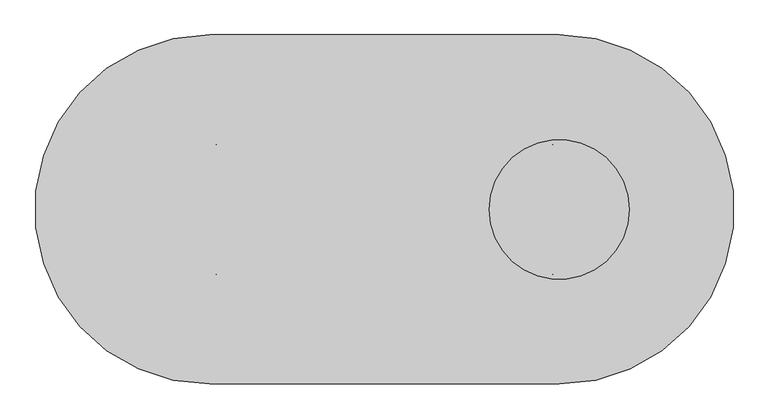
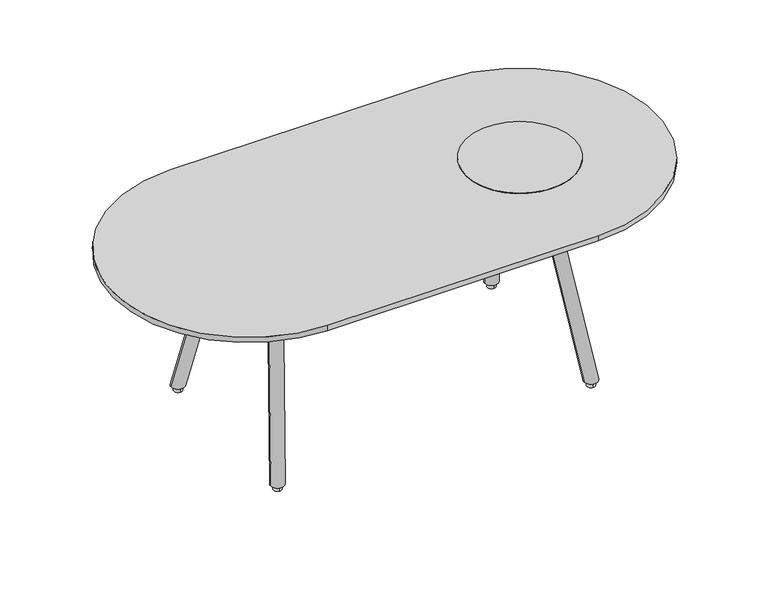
"""IFC4 building model written with IfcOpenShell, lengths in millimetres: furniture geometry, Coffee table_Friendly : Coffee table_Friendly."""

from ifc_helpers import new_model, si_unit, point, frame, frame_2d, origin, origin_with_axes, place, context, project, spatial, polyline, circle_curve, trimmed, segment, composite_curve, outline, extrude, source, transform, mapped, element, save
from ifc_brep_helpers import plane_surface, extruded_surface, advanced_brep


def furniture_2f6715d6(model_context):
    return source(origin(), model_context, "Body", "SolidModel", [
        extrude(outline(composite_curve([segment(trimmed(circle_curve(frame_2d((289.0, 159.0)), 7.5), [point((289.0, 151.5))], [point((289.0, 166.5))], False, "CARTESIAN"), True, "CONTINUOUS"), segment(trimmed(circle_curve(frame_2d((289.0, 159.0)), 7.5), [point((289.0, 166.5))], [point((289.0, 151.5))], False, "CARTESIAN"), True, "CONTINUOUS")], self_intersect=False)), origin_with_axes(), (0.0, 0.0, 1.0), 10.0),
        extrude(outline(composite_curve([segment(trimmed(circle_curve(frame_2d((289.0, -159.0)), 7.5), [point((289.0, -151.5))], [point((289.0, -166.5))], False, "CARTESIAN"), True, "CONTINUOUS"), segment(trimmed(circle_curve(frame_2d((289.0, -159.0)), 7.5), [point((289.0, -166.5))], [point((289.0, -151.5))], False, "CARTESIAN"), True, "CONTINUOUS")], self_intersect=False)), origin_with_axes(), (0.0, 0.0, 1.0), 10.0),
        extrude(outline(composite_curve([segment(trimmed(circle_curve(frame_2d((250.0, 0.0)), 100.0), [point((150.0, 0.0))], [point((350.0, 0.0))], False, "CARTESIAN"), True, "CONTINUOUS"), segment(trimmed(circle_curve(frame_2d((250.0, 0.0)), 100.0), [point((350.0, 0.0))], [point((150.0, 0.0))], False, "CARTESIAN"), True, "CONTINUOUS")], self_intersect=False)), frame((0.0, 0.0, 360.0), z_axis=(0.0, 0.0, 1.0), x_axis=(1.0, 0.0, 0.0)), (0.0, 0.0, 1.0), 1.0),
        extrude(outline(composite_curve([segment(trimmed(circle_curve(frame_2d((-289.0, -159.0)), 7.5), [point((-289.0, -151.5))], [point((-289.0, -166.5))], False, "CARTESIAN"), True, "CONTINUOUS"), segment(trimmed(circle_curve(frame_2d((-289.0, -159.0)), 7.5), [point((-289.0, -166.5))], [point((-289.0, -151.5))], False, "CARTESIAN"), True, "CONTINUOUS")], self_intersect=False)), origin_with_axes(), (0.0, 0.0, 1.0), 10.0),
        extrude(outline(composite_curve([segment(trimmed(circle_curve(frame_2d((-289.0, 159.0)), 7.5), [point((-289.0, 151.5))], [point((-289.0, 166.5))], False, "CARTESIAN"), True, "CONTINUOUS"), segment(trimmed(circle_curve(frame_2d((-289.0, 159.0)), 7.5), [point((-289.0, 166.5))], [point((-289.0, 151.5))], False, "CARTESIAN"), True, "CONTINUOUS")], self_intersect=False)), origin_with_axes(), (0.0, 0.0, 1.0), 10.0),
        advanced_brep(
        [(-262.5, 85.0, 329.0), (-237.5, 85.0, 329.0), (-301.5, 159.0, 10.0), (-276.5, 159.0, 10.0)],
        [
            (0, 1, circle_curve(frame((-250.0, 85.0, 329.0), z_axis=(0.0, 0.0, 1.0), x_axis=(1.0, 0.0, 0.0)), 12.5)),
            (1, 0, circle_curve(frame((-250.0, 85.0, 329.0), z_axis=(0.0, 0.0, 1.0), x_axis=(1.0, 0.0, 0.0)), 12.5)),
            (2, 3, circle_curve(frame((-289.0, 159.0, 10.0), z_axis=(0.0, 0.0, -1.0), x_axis=(1.0, 0.0, 0.0)), 12.5)),
            (3, 2, circle_curve(frame((-289.0, 159.0, 10.0), z_axis=(0.0, 0.0, -1.0), x_axis=(1.0, 0.0, 0.0)), 12.5)),
            (0, 2),
            (3, 1),
        ],
        [
            plane_surface(frame((-250.0, 85.0, 329.0), z_axis=(0.0, 0.0, 1.0), x_axis=(0.0, -1.0, 0.0))),
            plane_surface(frame((-289.0, 159.0, 10.0), z_axis=(0.0, 0.0, -1.0), x_axis=(0.0, -1.0, 0.0))),
            extruded_surface(trimmed(circle_curve(frame((-289.0, 159.0, 10.0), z_axis=(0.0, 0.0, 1.0), x_axis=(1.0, 0.0, 0.0)), 12.5), [point((-301.5, 159.0, 10.0))], [point((-276.5, 159.0, 10.0))], True, "CARTESIAN"), (39.0, -74.0, 319.0), 329.7847783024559),
            extruded_surface(trimmed(circle_curve(frame((-289.0, 159.0, 10.0), z_axis=(0.0, 0.0, 1.0), x_axis=(1.0, 0.0, 0.0)), 12.5), [point((-276.5, 159.0, 10.0))], [point((-301.5, 159.0, 10.0))], True, "CARTESIAN"), (39.0, -74.0, 319.0), 329.7847783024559),
        ],
        [
            (0, [[1, 2]]),
            (1, [[3, 4]]),
            (2, [[-1, 5, -4, 6]]),
            (3, [[-2, -6, -3, -5]]),
        ],
    ),
        advanced_brep(
        [(262.5, 85.0, 329.0), (237.5, 85.0, 329.0), (301.5, 159.0, 10.0), (276.5, 159.0, 10.0)],
        [
            (0, 1, circle_curve(frame((250.0, 85.0, 329.0), z_axis=(0.0, 0.0, 1.0), x_axis=(-1.0, 0.0, 0.0)), 12.5)),
            (1, 0, circle_curve(frame((250.0, 85.0, 329.0), z_axis=(0.0, 0.0, 1.0), x_axis=(-1.0, 0.0, 0.0)), 12.5)),
            (2, 3, circle_curve(frame((289.0, 159.0, 10.0), z_axis=(0.0, 0.0, -1.0), x_axis=(-1.0, 0.0, 0.0)), 12.5)),
            (3, 2, circle_curve(frame((289.0, 159.0, 10.0), z_axis=(0.0, 0.0, -1.0), x_axis=(-1.0, 0.0, 0.0)), 12.5)),
            (0, 2),
            (3, 1),
        ],
        [
            plane_surface(frame((250.0, 85.0, 329.0), z_axis=(0.0, 0.0, 1.0), x_axis=(0.0, 1.0, 0.0))),
            plane_surface(frame((289.0, 159.0, 10.0), z_axis=(0.0, 0.0, -1.0), x_axis=(0.0, 1.0, 0.0))),
            extruded_surface(trimmed(circle_curve(frame((289.0, 159.0, 10.0), z_axis=(0.0, 0.0, 1.0), x_axis=(-1.0, 0.0, 0.0)), 12.5), [point((301.5, 159.0, 10.0))], [point((276.5, 159.0, 10.0))], True, "CARTESIAN"), (-39.0, -74.0, 319.0), 329.7847783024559),
            extruded_surface(trimmed(circle_curve(frame((289.0, 159.0, 10.0), z_axis=(0.0, 0.0, 1.0), x_axis=(-1.0, 0.0, 0.0)), 12.5), [point((276.5, 159.0, 10.0))], [point((301.5, 159.0, 10.0))], True, "CARTESIAN"), (-39.0, -74.0, 319.0), 329.7847783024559),
        ],
        [
            (0, [[1, 2]]),
            (1, [[3, 4]]),
            (2, [[-1, 5, -4, 6]]),
            (3, [[-2, -6, -3, -5]]),
        ],
    ),
        advanced_brep(
        [(-262.5, -85.0, 329.0), (-237.5, -85.0, 329.0), (-301.5, -159.0, 10.0), (-276.5, -159.0, 10.0)],
        [
            (0, 1, circle_curve(frame((-250.0, -85.0, 329.0), z_axis=(0.0, 0.0, 1.0), x_axis=(1.0, 0.0, 0.0)), 12.5)),
            (1, 0, circle_curve(frame((-250.0, -85.0, 329.0), z_axis=(0.0, 0.0, 1.0), x_axis=(1.0, 0.0, 0.0)), 12.5)),
            (2, 3, circle_curve(frame((-289.0, -159.0, 10.0), z_axis=(0.0, 0.0, -1.0), x_axis=(1.0, 0.0, 0.0)), 12.5)),
            (3, 2, circle_curve(frame((-289.0, -159.0, 10.0), z_axis=(0.0, 0.0, -1.0), x_axis=(1.0, 0.0, 0.0)), 12.5)),
            (0, 2),
            (3, 1),
        ],
        [
            plane_surface(frame((-250.0, -85.0, 329.0), z_axis=(0.0, 0.0, 1.0), x_axis=(0.0, -1.0, 0.0))),
            plane_surface(frame((-289.0, -159.0, 10.0), z_axis=(0.0, 0.0, -1.0), x_axis=(0.0, -1.0, 0.0))),
            extruded_surface(trimmed(circle_curve(frame((-289.0, -159.0, 10.0), z_axis=(0.0, 0.0, 1.0), x_axis=(1.0, 0.0, 0.0)), 12.5), [point((-301.5, -159.0, 10.0))], [point((-276.5, -159.0, 10.0))], True, "CARTESIAN"), (39.0, 74.0, 319.0), 329.7847783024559),
            extruded_surface(trimmed(circle_curve(frame((-289.0, -159.0, 10.0), z_axis=(0.0, 0.0, 1.0), x_axis=(1.0, 0.0, 0.0)), 12.5), [point((-276.5, -159.0, 10.0))], [point((-301.5, -159.0, 10.0))], True, "CARTESIAN"), (39.0, 74.0, 319.0), 329.7847783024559),
        ],
        [
            (0, [[1, 2]]),
            (1, [[3, 4]]),
            (2, [[-1, 5, -4, 6]]),
            (3, [[-2, -6, -3, -5]]),
        ],
    ),
        advanced_brep(
        [(262.5, -85.0, 329.0), (237.5, -85.0, 329.0), (301.5, -159.0, 10.0), (276.5, -159.0, 10.0)],
        [
            (0, 1, circle_curve(frame((250.0, -85.0, 329.0), z_axis=(0.0, 0.0, 1.0), x_axis=(-1.0, 0.0, 0.0)), 12.5)),
            (1, 0, circle_curve(frame((250.0, -85.0, 329.0), z_axis=(0.0, 0.0, 1.0), x_axis=(-1.0, 0.0, 0.0)), 12.5)),
            (2, 3, circle_curve(frame((289.0, -159.0, 10.0), z_axis=(0.0, 0.0, -1.0), x_axis=(-1.0, 0.0, 0.0)), 12.5)),
            (3, 2, circle_curve(frame((289.0, -159.0, 10.0), z_axis=(0.0, 0.0, -1.0), x_axis=(-1.0, 0.0, 0.0)), 12.5)),
            (0, 2),
            (3, 1),
        ],
        [
            plane_surface(frame((250.0, -85.0, 329.0), z_axis=(0.0, 0.0, 1.0), x_axis=(0.0, 1.0, 0.0))),
            plane_surface(frame((289.0, -159.0, 10.0), z_axis=(0.0, 0.0, -1.0), x_axis=(0.0, 1.0, 0.0))),
            extruded_surface(trimmed(circle_curve(frame((289.0, -159.0, 10.0), z_axis=(0.0, 0.0, 1.0), x_axis=(-1.0, 0.0, 0.0)), 12.5), [point((301.5, -159.0, 10.0))], [point((276.5, -159.0, 10.0))], True, "CARTESIAN"), (-39.0, 74.0, 319.0), 329.7847783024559),
            extruded_surface(trimmed(circle_curve(frame((289.0, -159.0, 10.0), z_axis=(0.0, 0.0, 1.0), x_axis=(-1.0, 0.0, 0.0)), 12.5), [point((276.5, -159.0, 10.0))], [point((301.5, -159.0, 10.0))], True, "CARTESIAN"), (-39.0, 74.0, 319.0), 329.7847783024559),
        ],
        [
            (0, [[1, 2]]),
            (1, [[3, 4]]),
            (2, [[-1, 5, -4, 6]]),
            (3, [[-2, -6, -3, -5]]),
        ],
    ),
        extrude(outline(composite_curve([segment(trimmed(circle_curve(frame_2d((-250.0, 0.0)), 125.0), [point((-375.0, 0.0))], [point((-125.0, 0.0))], False, "CARTESIAN"), True, "CONTINUOUS"), segment(trimmed(circle_curve(frame_2d((-250.0, 0.0)), 125.0), [point((-125.0, 0.0))], [point((-375.0, 0.0))], False, "CARTESIAN"), True, "CONTINUOUS")], self_intersect=False)), frame((0.0, 0.0, 329.0), z_axis=(0.0, 0.0, 1.0), x_axis=(1.0, 0.0, 0.0)), (0.0, 0.0, 1.0), 3.0),
        extrude(outline(composite_curve([segment(trimmed(circle_curve(frame_2d((250.0, 0.0)), 125.0), [point((125.0, 0.0))], [point((375.0, 0.0))], False, "CARTESIAN"), True, "CONTINUOUS"), segment(trimmed(circle_curve(frame_2d((250.0, 0.0)), 125.0), [point((375.0, 0.0))], [point((125.0, 0.0))], False, "CARTESIAN"), True, "CONTINUOUS")], self_intersect=False)), frame((0.0, 0.0, 329.0), z_axis=(0.0, 0.0, 1.0), x_axis=(1.0, 0.0, 0.0)), (0.0, 0.0, 1.0), 3.0),
        extrude(outline(composite_curve([segment(polyline([(-250.0, 135.0), (250.0, 135.0)]), True, "CONTINUOUS"), segment(trimmed(circle_curve(frame_2d((250.0, 0.0)), 135.0), [point((250.0, 135.0))], [point((250.0, -135.0))], False, "CARTESIAN"), True, "CONTINUOUS"), segment(polyline([(250.0, -135.0), (-250.0, -135.0)]), True, "CONTINUOUS"), segment(trimmed(circle_curve(frame_2d((-250.0, 0.0)), 135.0), [point((-250.0, -135.0))], [point((-250.0, 135.0))], False, "CARTESIAN"), True, "CONTINUOUS")], self_intersect=False)), frame((0.0, 0.0, 332.0), z_axis=(0.0, 0.0, 1.0), x_axis=(1.0, 0.0, 0.0)), (0.0, 0.0, 1.0), 18.0),
        extrude(outline(composite_curve([segment(polyline([(-250.0, 250.0), (250.0, 250.0)]), True, "CONTINUOUS"), segment(trimmed(circle_curve(frame_2d((250.0, 0.0)), 250.0), [point((250.0, 250.0))], [point((250.0, -250.0))], False, "CARTESIAN"), True, "CONTINUOUS"), segment(polyline([(250.0, -250.0), (-250.0, -250.0)]), True, "CONTINUOUS"), segment(trimmed(circle_curve(frame_2d((-250.0, 0.0)), 250.0), [point((-250.0, -250.0))], [point((-250.0, 250.0))], False, "CARTESIAN"), True, "CONTINUOUS")], self_intersect=False)), frame((0.0, 0.0, 350.0), z_axis=(0.0, 0.0, 1.0), x_axis=(1.0, 0.0, 0.0)), (0.0, 0.0, 1.0), 10.0),
    ])


if __name__ == "__main__":
    model = new_model("IFC4")
    model_context = context("Model", 3, world=origin())
    ifc_project = project(units=[si_unit("LENGTHUNIT", "METRE", prefix="MILLI")], contexts=[model_context])
    site = spatial("IfcSite", under=ifc_project)
    building = spatial("IfcBuilding", under=site)
    placement = place(None, origin())
    furniture_shape = furniture_2f6715d6(model_context)
    element("IfcFurniture", 1, ObjectType="Coffee table_Friendly : Coffee table_Friendly", at=placement, inside=building, context=model_context, shape_type="MappedRepresentation", body=[
        mapped(furniture_shape, transform((0.0, 0.0, 0.0), x_axis=(1.0, 0.0, 0.0), y_axis=(0.0, 1.0, 0.0), z_axis=(0.0, 0.0, 1.0))),
    ])
    save(model, "model.ifc")
